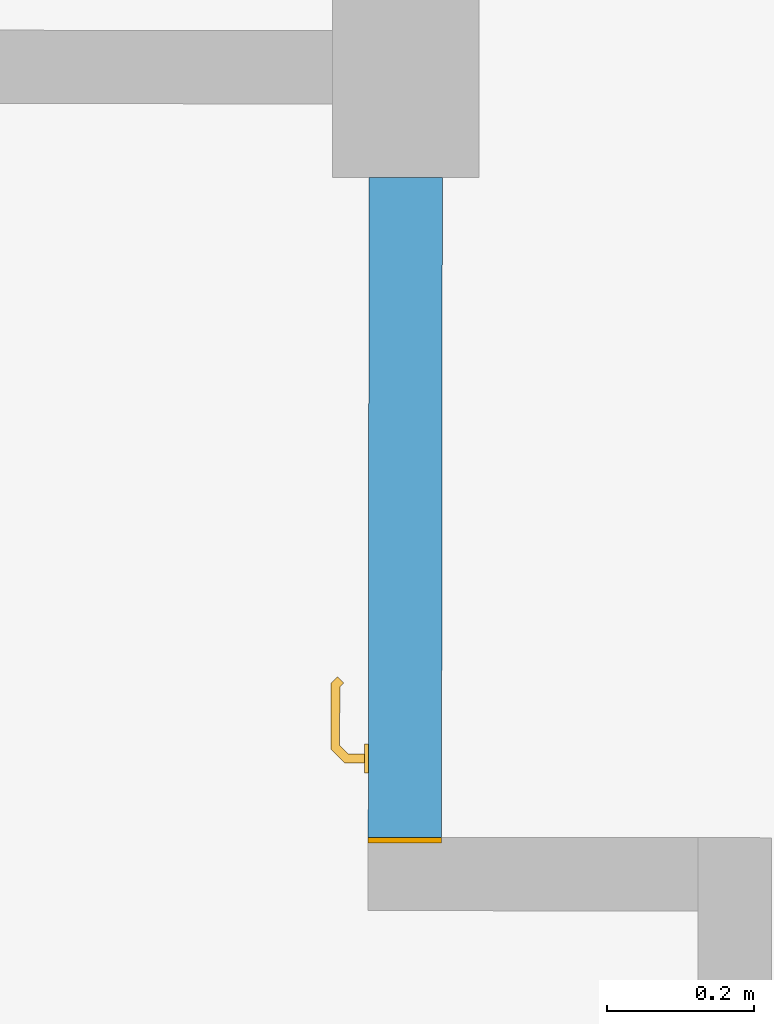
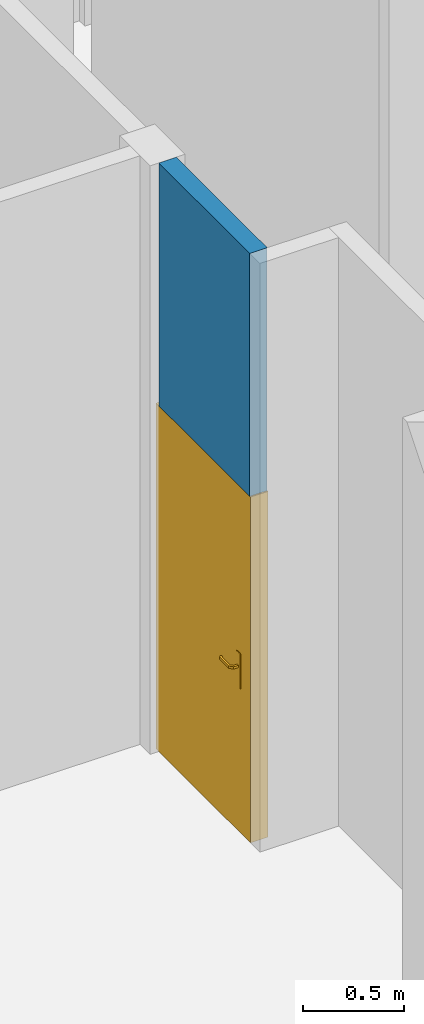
# One storey, part 62 of 101: 1 door, 1 wall, 1 opening.
"""IFC2X3 building model written with IfcOpenShell, lengths in metres."""

from ifc_helpers import new_model, entity, si_unit, converted_unit, derived_unit, direction, frame, frame_2d, origin, place, context, subcontext, project, spatial, rectangle, extrude, faceted_brep, source, transform, mapped, material, material_list, layer, layer_set, layer_usage, type_object, type_shapes, element, fill, save


model = new_model("IFC2X3")

# Units and contexts
model_context = context("Model", 3, precision=1e-05, world=origin(), true_north=direction((6.123233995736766e-17, 1.0)))
body_context = subcontext(model_context, "Body", "Model", "MODEL_VIEW")
ifc_project = project(units=[si_unit("LENGTHUNIT", "METRE"), si_unit("AREAUNIT", "SQUARE_METRE"), converted_unit("PLANEANGLEUNIT", "DEGREE", entity("IfcPlaneAngleMeasure", 0.017453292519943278), si_unit("PLANEANGLEUNIT", "RADIAN"), dimensions=[0, 0, 0, 0, 0, 0, 0]), derived_unit("THERMALTRANSMITTANCEUNIT", [(si_unit("MASSUNIT", "GRAM", prefix="KILO"), 1), (si_unit("THERMODYNAMICTEMPERATUREUNIT", "KELVIN"), -1), (si_unit("TIMEUNIT", "SECOND"), -3)])], contexts=[model_context])

# Site, building, storey
site_placement = place(None, frame((1253.6752467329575, 2072.143113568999, 91.49999999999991), z_axis=(0.0, 0.0, 1.0), x_axis=(0.7237211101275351, 0.6900925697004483, 0.0)))
site = spatial("IfcSite", under=ifc_project, at=site_placement, Name="Surface", CompositionType="ELEMENT")
building_placement = place(site_placement, origin())
building = spatial("IfcBuilding", under=site, at=building_placement, CompositionType="ELEMENT")
storey_placement = place(building_placement, origin())
storey = spatial("IfcBuildingStorey", under=building, at=storey_placement, Name="0- Rdc", CompositionType="ELEMENT", Elevation=-5.764692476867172e-13)

# Wall, opening, door
ifc_material_1 = material(Name="OMD_Béton blanc")
ifc_layer = layer(ifc_material_1, 0.1)
ifc_layer_set = layer_set([ifc_layer], Name="Mur de base:MUR 10")
ifc_layer_usage = layer_usage(ifc_layer_set, "AXIS2", "NEGATIVE", 0.05)
wall_type = type_object("IfcWallType", Name="Mur de base:MUR 10", PredefinedType="STANDARD", material=ifc_layer_set)
wall_placement = place(storey_placement, frame((163.15991090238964, 16.48083282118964, 2.0850000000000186), z_axis=(0.0, 0.0, 1.0), x_axis=(0.6909838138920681, 0.7228702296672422, 0.0)))
wall = element("IfcWallStandardCase", 1, at=wall_placement, inside=storey, type_object=wall_type, material=ifc_layer_usage, Name="Mur de base:MUR 10", ObjectType="Mur de base:MUR 10", context=body_context, shape_type="SweptSolid", body=[
    extrude(rectangle(XDim=0.8999999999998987, YDim=0.10000000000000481, at=frame_2d((0.44999999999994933, 1.304512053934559e-15), x_axis=(-1.0, 0.0))), origin(), (0.0, 0.0, 1.0), 1.464999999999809),
])
opening_placement = place(wall_placement, frame((-0.007500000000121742, -0.05000000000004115, -2.0850000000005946)))
opening = element("IfcOpeningElement", 2, at=opening_placement, cuts=wall, Name="OMD_Porte 1V tunnel:80x204:1", ObjectType="Opening", context=body_context, shape_type="SweptSolid", body=[
    extrude(rectangle(XDim=2.0850000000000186, YDim=0.9349999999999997, at=frame_2d((1.0425000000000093, 0.46749999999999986), x_axis=(1.0, 0.0))), frame((0.0, 0.0, 0.0), z_axis=(0.0, 1.0, 0.0), x_axis=(0.0, 0.0, 1.0)), (0.0, 0.0, 1.0), 0.1),
])
ifc_material_2 = material(Name="Porte - Poignée")
ifc_material_3 = material(Name="OMD_Peinture mur")
ifc_material_4 = material(Name="OMD_Bois")
ifc_material_list = material_list([ifc_material_2, ifc_material_3, ifc_material_4])
door_style = type_object("IfcDoorStyle", Name="OMD_Porte 1V tunnel:80x204", ConstructionType="NOTDEFINED", OperationType="NOTDEFINED", ParameterTakesPrecedence=False, Sizeable=False, material=ifc_material_list)
shared_shape = source(origin(), body_context, "Body", "Brep", [
    faceted_brep([(0.8220252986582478, 0.03500000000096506, 1.0077804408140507), (0.8179747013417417, 0.03500000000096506, 1.007780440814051), (0.8139999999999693, 0.03500000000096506, 1.00699999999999), (0.8139999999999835, 0.03500000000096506, 0.9930000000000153), (0.8179747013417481, 0.03500000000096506, 0.9922195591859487), (0.8220252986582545, 0.03500000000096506, 0.9922195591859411), (0.8260000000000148, 0.03500000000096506, 0.9929999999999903), (0.826000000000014, 0.03500000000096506, 1.006999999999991), (0.8139999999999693, 0.05748520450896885, 1.00699999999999), (0.8139999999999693, 0.05748520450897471, 0.9930000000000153), (0.8179747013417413, 0.059131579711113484, 1.007780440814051), (0.8220252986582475, 0.060809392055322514, 1.0077804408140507), (0.8058389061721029, 0.07699578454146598, 1.0077804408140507), (0.8041610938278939, 0.07294518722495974, 1.007780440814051), (0.7207931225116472, 0.07294518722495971, 1.0077804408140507), (0.7191153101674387, 0.07699578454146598, 1.0077804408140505), (0.7114510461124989, 0.06933152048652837, 1.0077804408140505), (0.714315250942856, 0.0664673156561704, 1.0077804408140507), (0.8260000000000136, 0.062455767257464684, 1.006999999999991), (0.8260000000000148, 0.062455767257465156, 0.9929999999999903), (0.8220252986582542, 0.06080939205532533, 0.9922195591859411), (0.8179747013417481, 0.05913157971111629, 0.9922195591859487), (0.8041610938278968, 0.07294518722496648, 0.9922195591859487), (0.8058389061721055, 0.07699578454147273, 0.9922195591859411), (0.7191153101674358, 0.07699578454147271, 0.9922195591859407), (0.7207931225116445, 0.07294518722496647, 0.9922195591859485), (0.7143152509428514, 0.06646731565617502, 0.9922195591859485), (0.7114510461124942, 0.06933152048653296, 0.9922195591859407), (0.8025147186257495, 0.06897048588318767, 1.00699999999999), (0.8025147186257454, 0.06897048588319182, 0.9930000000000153), (0.8074852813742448, 0.08097048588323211, 1.006999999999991), (0.8074852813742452, 0.08097048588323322, 0.9929999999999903), (0.7624771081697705, 0.06897048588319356, 1.0069999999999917), (0.7224394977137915, 0.06897048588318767, 1.0069999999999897), (0.7224394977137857, 0.0689704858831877, 0.9930000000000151), (0.7624771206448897, 0.06897048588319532, 0.9930000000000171), (0.7624771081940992, 0.07512492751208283, 1.0078781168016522), (0.7573994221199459, 0.08097048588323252, 1.0069999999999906), (0.7174689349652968, 0.08097048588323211, 1.0069999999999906), (0.7675547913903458, 0.08097048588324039, 0.9929999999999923), (0.7174689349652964, 0.08097048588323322, 0.99299999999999), (0.762477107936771, 0.07512492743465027, 0.9921218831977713), (0.7086405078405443, 0.07214205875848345, 1.0069999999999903), (0.7086405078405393, 0.07214205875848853, 0.9929999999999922), (0.7171257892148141, 0.06365677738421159, 0.9930000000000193), (0.71712578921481, 0.06365677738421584, 1.0069999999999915)], [[[0, 1, 2, 3, 4, 5, 6, 7]], [[8, 9, 3, 2]], [[1, 10, 8, 2]], [[1, 0, 11, 12, 13, 10]], [[14, 15, 16, 17]], [[7, 18, 11, 0]], [[18, 7, 6, 19]], [[6, 5, 20, 19]], [[5, 4, 21, 22, 23, 20]], [[24, 25, 26, 27]], [[4, 3, 9, 21]], [[28, 29, 9, 8]], [[8, 10, 13, 28]], [[18, 30, 12, 11]], [[31, 30, 18, 19]], [[19, 20, 23, 31]], [[21, 9, 29, 22]], [[29, 28, 32, 33, 34, 35]], [[36, 32, 13]], [[37, 38, 15]], [[37, 12, 30]], [[36, 12, 37]], [[14, 32, 36]], [[36, 15, 14]], [[28, 13, 32]], [[32, 14, 33]], [[12, 36, 13]], [[15, 36, 37]], [[30, 31, 39, 40, 38, 37]], [[23, 41, 39]], [[24, 39, 41]], [[39, 31, 23]], [[39, 24, 40]], [[22, 35, 41]], [[41, 23, 22]], [[41, 35, 25]], [[35, 22, 29]], [[34, 25, 35]], [[24, 41, 25]], [[17, 16, 42, 43, 27, 26, 44, 45]], [[45, 44, 34, 33]], [[33, 14, 17, 45]], [[15, 38, 42, 16]], [[43, 42, 38, 40]], [[24, 27, 43, 40]], [[34, 44, 26, 25]]]),
    faceted_brep([(0.817974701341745, -0.004999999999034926, 1.007780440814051), (0.8220252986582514, -0.004999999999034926, 1.0077804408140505), (0.8260000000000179, -0.004999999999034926, 1.0069999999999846), (0.8260000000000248, -0.004999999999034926, 0.9929999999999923), (0.8220252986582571, -0.004999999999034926, 0.992219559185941), (0.817974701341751, -0.004999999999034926, 0.9922195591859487), (0.8139999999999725, -0.004999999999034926, 0.9930000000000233), (0.8139999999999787, -0.004999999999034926, 1.006999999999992), (0.8220252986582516, -0.03100457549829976, 1.0077804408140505), (0.8260000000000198, -0.03265095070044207, 1.0069999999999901), (0.8179747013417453, -0.02932676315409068, 1.007780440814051), (0.8042986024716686, -0.04300286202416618, 1.007780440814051), (0.8059764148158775, -0.04705345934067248, 1.0077804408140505), (0.7191424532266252, -0.04705345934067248, 1.0077804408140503), (0.7208202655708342, -0.04300286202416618, 1.0077804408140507), (0.714342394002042, -0.03652499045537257, 1.0077804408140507), (0.7114781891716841, -0.039389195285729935, 1.0077804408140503), (0.813999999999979, -0.02768038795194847, 1.006999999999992), (0.8139999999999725, -0.02768038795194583, 0.9930000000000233), (0.817974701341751, -0.029326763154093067, 0.9922195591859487), (0.8220252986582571, -0.031004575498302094, 0.992219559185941), (0.8059764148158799, -0.0470534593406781, 0.992219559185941), (0.804298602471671, -0.04300286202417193, 0.9922195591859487), (0.7208202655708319, -0.04300286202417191, 0.9922195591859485), (0.7191424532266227, -0.047053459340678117, 0.9922195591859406), (0.71147818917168, -0.03938919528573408, 0.9922195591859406), (0.7143423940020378, -0.036524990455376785, 0.9922195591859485), (0.8260000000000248, -0.032650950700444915, 0.9929999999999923), (0.807622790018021, -0.051028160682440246, 1.0069999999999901), (0.8026522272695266, -0.03902816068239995, 1.006999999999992), (0.8026522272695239, -0.03902816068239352, 0.9930000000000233), (0.8076227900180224, -0.05102816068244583, 0.9929999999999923), (0.762559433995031, -0.0451828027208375, 1.0078781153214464), (0.7676923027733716, -0.05102816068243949, 1.0069999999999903), (0.7174960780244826, -0.05102816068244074, 1.00699999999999), (0.7625594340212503, -0.03902816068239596, 1.0069999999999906), (0.7224666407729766, -0.039028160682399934, 1.0069999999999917), (0.7625594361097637, -0.03902816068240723, 0.9930000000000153), (0.7224666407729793, -0.03902816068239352, 0.9930000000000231), (0.7625594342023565, -0.04518280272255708, 0.9921218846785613), (0.7574265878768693, -0.051028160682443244, 0.9929999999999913), (0.7174960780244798, -0.05102816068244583, 0.9929999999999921), (0.7171529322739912, -0.033714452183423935, 0.9930000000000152), (0.7086676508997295, -0.04219973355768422, 0.9929999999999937), (0.7086676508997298, -0.04219973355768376, 1.0069999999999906), (0.717152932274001, -0.03371445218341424, 1.0069999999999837)], [[[0, 1, 2, 3, 4, 5, 6, 7]], [[2, 1, 8, 9]], [[1, 0, 10, 11, 12, 8]], [[13, 14, 15, 16]], [[0, 7, 17, 10]], [[18, 17, 7, 6]], [[5, 19, 18, 6]], [[5, 4, 20, 21, 22, 19]], [[23, 24, 25, 26]], [[3, 27, 20, 4]], [[9, 27, 3, 2]], [[9, 8, 12, 28]], [[10, 17, 29, 11]], [[30, 29, 17, 18]], [[18, 19, 22, 30]], [[20, 27, 31, 21]], [[28, 31, 27, 9]], [[12, 32, 33]], [[13, 33, 32]], [[33, 28, 12]], [[33, 13, 34]], [[11, 35, 32]], [[32, 12, 11]], [[32, 35, 14]], [[35, 11, 29]], [[36, 14, 35]], [[13, 32, 14]], [[29, 30, 37, 38, 36, 35]], [[39, 37, 22]], [[40, 41, 24]], [[40, 21, 31]], [[39, 21, 40]], [[23, 37, 39]], [[39, 24, 23]], [[30, 22, 37]], [[37, 23, 38]], [[21, 39, 22]], [[24, 39, 40]], [[31, 28, 33, 34, 41, 40]], [[42, 26, 25, 43, 44, 16, 15, 45]], [[13, 16, 44, 34]], [[36, 45, 15, 14]], [[42, 45, 36, 38]], [[38, 23, 26, 42]], [[24, 41, 43, 25]], [[44, 43, 41, 34]]]),
    faceted_brep([(0.8199999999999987, 0.030000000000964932, 0.8646410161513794), (0.8303527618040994, 0.03000000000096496, 0.866003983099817), (0.8399999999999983, 0.030000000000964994, 0.8700000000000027), (0.8399999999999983, 0.030000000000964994, 1.0800000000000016), (0.8303527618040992, 0.03000000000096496, 1.0839960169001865), (0.8199999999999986, 0.030000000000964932, 1.0853589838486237), (0.809647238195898, 0.030000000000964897, 1.0839960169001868), (0.7999999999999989, 0.030000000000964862, 1.0800000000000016), (0.7999999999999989, 0.030000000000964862, 0.8700000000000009), (0.8096472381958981, 0.030000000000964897, 0.8660039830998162), (0.8199999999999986, 0.03500000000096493, 1.0853589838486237), (0.8303527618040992, 0.03500000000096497, 1.0839960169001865), (0.8399999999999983, 0.035000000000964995, 1.0800000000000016), (0.8399999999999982, 0.035000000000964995, 0.8700000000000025), (0.8303527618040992, 0.03500000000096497, 0.866003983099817), (0.8199999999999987, 0.03500000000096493, 0.8646410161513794), (0.8096472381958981, 0.0350000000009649, 0.8660039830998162), (0.7999999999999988, 0.03500000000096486, 0.8700000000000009), (0.7999999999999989, 0.03500000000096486, 1.0800000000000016), (0.809647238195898, 0.0350000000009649, 1.0839960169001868)], [[[0, 1, 2, 3, 4, 5, 6, 7, 8, 9]], [[10, 11, 12, 13, 14, 15, 16, 17, 18, 19]], [[6, 19, 18, 7]], [[5, 10, 19, 6]], [[4, 11, 10, 5]], [[4, 3, 12, 11]], [[12, 3, 2, 13]], [[1, 14, 13, 2]], [[0, 15, 14, 1]], [[9, 16, 15, 0]], [[9, 8, 17, 16]], [[17, 8, 7, 18]]]),
    faceted_brep([(0.819999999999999, -0.004999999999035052, 0.8646410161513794), (0.8303527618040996, -0.0049999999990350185, 0.8660039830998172), (0.8399999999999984, -0.004999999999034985, 0.8700000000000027), (0.8399999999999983, -0.004999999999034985, 1.0800000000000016), (0.8303527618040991, -0.0049999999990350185, 1.0839960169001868), (0.8199999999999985, -0.004999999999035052, 1.0853589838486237), (0.8096472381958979, -0.004999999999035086, 1.0839960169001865), (0.7999999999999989, -0.004999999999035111, 1.0800000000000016), (0.7999999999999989, -0.004999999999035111, 0.8700000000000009), (0.8096472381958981, -0.004999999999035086, 0.8660039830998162), (0.8399999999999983, 0.0, 1.0800000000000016), (0.8399999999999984, 0.0, 0.8700000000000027), (0.8303527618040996, 0.0, 0.8660039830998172), (0.819999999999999, 0.0, 0.8646410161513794), (0.8096472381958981, 0.0, 0.8660039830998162), (0.7999999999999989, 0.0, 0.8700000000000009), (0.7999999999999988, 0.0, 1.0800000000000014), (0.8096472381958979, 0.0, 1.0839960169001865), (0.8199999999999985, 0.0, 1.0853589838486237), (0.8303527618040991, 0.0, 1.0839960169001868)], [[[0, 1, 2, 3, 4, 5, 6, 7, 8, 9]], [[10, 11, 12, 13, 14, 15, 16, 17, 18, 19]], [[1, 12, 11, 2]], [[0, 13, 12, 1]], [[9, 14, 13, 0]], [[9, 8, 15, 14]], [[15, 8, 7, 16]], [[6, 17, 16, 7]], [[5, 18, 17, 6]], [[4, 19, 18, 5]], [[4, 3, 10, 19]], [[10, 3, 2, 11]]]),
    faceted_brep([(0.89, 0.030000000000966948, 0.0), (0.89, 0.0, 0.0), (0.04500000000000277, 0.0, 0.0), (0.04500000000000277, 0.030000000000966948, 0.0), (0.89, 0.030000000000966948, 2.04), (0.89, 0.0, 2.04), (0.04500000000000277, 0.0, 2.04), (0.04500000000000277, 0.030000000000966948, 2.04)], [[[0, 1, 2, 3]], [[4, 5, 1, 0]], [[5, 6, 2, 1]], [[6, 7, 3, 2]], [[7, 4, 0, 3]], [[4, 7, 6, 5]]]),
    faceted_brep([(0.9350000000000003, 0.0, 0.0), (0.89, 0.0, 0.0), (0.8900000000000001, 0.03000000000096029, 0.0), (0.8750000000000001, 0.030000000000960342, 0.0), (0.8750000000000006, 0.10000000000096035, 0.0), (0.9350000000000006, 0.10000000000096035, 0.0), (0.9350000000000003, 0.0, 2.085), (0.0, 0.0, 2.085), (0.0, 0.0, 0.0), (0.04500000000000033, 0.0, 0.0), (0.04500000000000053, 0.0, 2.04), (0.8899999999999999, 0.0, 2.0399999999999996), (0.89, 0.030000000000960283, 2.0399999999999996), (0.0450000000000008, 0.03000000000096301, 2.0399999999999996), (0.0450000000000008, 0.030000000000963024, 0.0), (0.060000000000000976, 0.030000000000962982, 0.0), (0.060000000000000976, 0.03000000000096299, 2.0249999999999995), (0.8750000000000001, 0.03000000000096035, 2.025), (0.8750000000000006, 0.10000000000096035, 2.0250000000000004), (0.060000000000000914, 0.10000000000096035, 2.025), (0.060000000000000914, 0.10000000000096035, 0.0), (0.0, 0.10000000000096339, 0.0), (0.0, 0.10000000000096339, 2.085), (0.9350000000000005, 0.10000000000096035, 2.085)], [[[0, 1, 2, 3, 4, 5]], [[1, 0, 6, 7, 8, 9, 10, 11]], [[2, 1, 11, 12]], [[3, 2, 12, 13, 14, 15, 16, 17]], [[4, 3, 17, 18]], [[5, 4, 18, 19, 20, 21, 22, 23]], [[0, 5, 23, 6]], [[7, 22, 21, 8]], [[8, 21, 20, 15, 14, 9]], [[13, 10, 9, 14]], [[19, 16, 15, 20]], [[12, 11, 10, 13]], [[18, 17, 16, 19]], [[6, 23, 22, 7]]]),
])
type_shapes(door_style, [shared_shape])
door_placement = place(opening_placement, frame((0.9349999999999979, 0.1000000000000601, 0.0), z_axis=(0.0, 0.0, 1.0), x_axis=(-1.0, 0.0, 0.0)))
door = element("IfcDoor", 3, at=door_placement, inside=storey, type_object=door_style, material=ifc_material_list, Name="OMD_Porte 1V tunnel:80x204", ObjectType="OMD_Porte 1V tunnel:80x204", OverallHeight=2.0850000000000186, OverallWidth=0.9350000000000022, context=body_context, shape_type="MappedRepresentation", body=[
    mapped(shared_shape, transform((0.0, 0.0, 0.0), scale=1.0)),
])
fill(opening, door)

save(model, "model.ifc")
